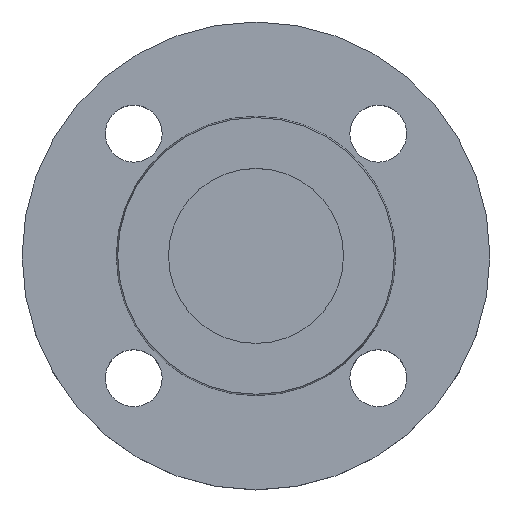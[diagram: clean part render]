
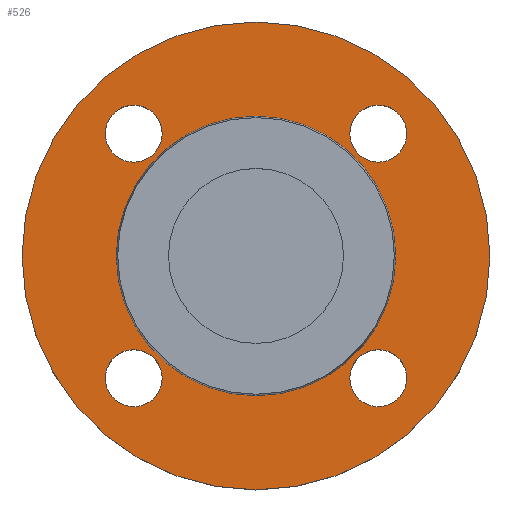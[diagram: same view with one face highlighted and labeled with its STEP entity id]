
A CAD part, top view. The second image highlights one B-rep face of the part: STEP entity #526.
In plain terms, the highlighted planar face has unit normal (0, 0, 1).
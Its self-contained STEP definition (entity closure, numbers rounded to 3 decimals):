
#21 = CARTESIAN_POINT ( 'NONE',  ( 57.5, 0., -2. ) ) ;
#26 = DIRECTION ( 'NONE',  ( 0., 0., -1. ) ) ;
#27 = AXIS2_PLACEMENT_3D ( 'NONE', #117, #734, #477 ) ;
#28 = CARTESIAN_POINT ( 'NONE',  ( -30.052, 30.052, -2. ) ) ;
#33 = DIRECTION ( 'NONE',  ( 1., 0., 0. ) ) ;
#34 = CARTESIAN_POINT ( 'NONE',  ( 0., 0., -2. ) ) ;
#38 = CARTESIAN_POINT ( 'NONE',  ( 37.052, 30.052, -2. ) ) ;
#45 = ORIENTED_EDGE ( 'NONE', *, *, #164, .T. ) ;
#46 = CARTESIAN_POINT ( 'NONE',  ( 23.052, -30.052, -2. ) ) ;
#49 = DIRECTION ( 'NONE',  ( 0., 0., -1. ) ) ;
#60 = CARTESIAN_POINT ( 'NONE',  ( 23.052, 30.052, -2. ) ) ;
#64 = CARTESIAN_POINT ( 'NONE',  ( 0., 0., -2. ) ) ;
#68 = CIRCLE ( 'NONE', #173, 7. ) ;
#90 = DIRECTION ( 'NONE',  ( 0., 0., -1. ) ) ;
#98 = CARTESIAN_POINT ( 'NONE',  ( -23.052, 30.052, -2. ) ) ;
#108 = AXIS2_PLACEMENT_3D ( 'NONE', #169, #689, #109 ) ;
#109 = DIRECTION ( 'NONE',  ( -1., 0., 0. ) ) ;
#114 = ORIENTED_EDGE ( 'NONE', *, *, #404, .T. ) ;
#117 = CARTESIAN_POINT ( 'NONE',  ( -30.052, 30.052, -2. ) ) ;
#128 = CIRCLE ( 'NONE', #27, 7. ) ;
#130 = AXIS2_PLACEMENT_3D ( 'NONE', #34, #603, #545 ) ;
#141 = VERTEX_POINT ( 'NONE', #38 ) ;
#164 = EDGE_CURVE ( 'NONE', #141, #687, #617, .T. ) ;
#169 = CARTESIAN_POINT ( 'NONE',  ( 0., 0., -2. ) ) ;
#172 = DIRECTION ( 'NONE',  ( 0., 0., -1. ) ) ;
#173 = AXIS2_PLACEMENT_3D ( 'NONE', #820, #243, #507 ) ;
#177 = FACE_OUTER_BOUND ( 'NONE', #593, .T. ) ;
#195 = ORIENTED_EDGE ( 'NONE', *, *, #785, .T. ) ;
#197 = AXIS2_PLACEMENT_3D ( 'NONE', #28, #90, #416 ) ;
#200 = EDGE_LOOP ( 'NONE', ( #45, #432 ) ) ;
#210 = CARTESIAN_POINT ( 'NONE',  ( -23.052, -30.052, -2. ) ) ;
#213 = ORIENTED_EDGE ( 'NONE', *, *, #674, .T. ) ;
#222 = PLANE ( 'NONE',  #633 ) ;
#237 = EDGE_CURVE ( 'NONE', #546, #730, #312, .T. ) ;
#240 = FACE_BOUND ( 'NONE', #429, .T. ) ;
#243 = DIRECTION ( 'NONE',  ( 0., 0., -1. ) ) ;
#266 = EDGE_CURVE ( 'NONE', #730, #546, #128, .T. ) ;
#269 = AXIS2_PLACEMENT_3D ( 'NONE', #578, #642, #391 ) ;
#272 = VERTEX_POINT ( 'NONE', #210 ) ;
#280 = CARTESIAN_POINT ( 'NONE',  ( 30.052, -30.052, -2. ) ) ;
#283 = CIRCLE ( 'NONE', #130, 34.353 ) ;
#288 = CARTESIAN_POINT ( 'NONE',  ( 34.353, 0., -2. ) ) ;
#294 = ORIENTED_EDGE ( 'NONE', *, *, #237, .T. ) ;
#301 = AXIS2_PLACEMENT_3D ( 'NONE', #608, #679, #424 ) ;
#306 = VERTEX_POINT ( 'NONE', #21 ) ;
#312 = CIRCLE ( 'NONE', #197, 7. ) ;
#322 = DIRECTION ( 'NONE',  ( 1., 0., 0. ) ) ;
#327 = DIRECTION ( 'NONE',  ( 0., 0., -1. ) ) ;
#368 = AXIS2_PLACEMENT_3D ( 'NONE', #280, #172, #653 ) ;
#372 = CIRCLE ( 'NONE', #476, 7. ) ;
#386 = CIRCLE ( 'NONE', #269, 7. ) ;
#387 = DIRECTION ( 'NONE',  ( -1., 0., 0. ) ) ;
#388 = CARTESIAN_POINT ( 'NONE',  ( -37.052, -30.052, -2. ) ) ;
#391 = DIRECTION ( 'NONE',  ( 1., 0., 0. ) ) ;
#394 = ORIENTED_EDGE ( 'NONE', *, *, #661, .F. ) ;
#404 = EDGE_CURVE ( 'NONE', #272, #779, #386, .T. ) ;
#407 = ORIENTED_EDGE ( 'NONE', *, *, #426, .T. ) ;
#416 = DIRECTION ( 'NONE',  ( 1., 0., 0. ) ) ;
#418 = EDGE_CURVE ( 'NONE', #306, #716, #643, .T. ) ;
#420 = CIRCLE ( 'NONE', #672, 7. ) ;
#424 = DIRECTION ( 'NONE',  ( 1., 0., 0. ) ) ;
#426 = EDGE_CURVE ( 'NONE', #782, #490, #471, .T. ) ;
#427 = DIRECTION ( 'NONE',  ( 1., 0., 0. ) ) ;
#429 = EDGE_LOOP ( 'NONE', ( #582, #407 ) ) ;
#432 = ORIENTED_EDGE ( 'NONE', *, *, #719, .T. ) ;
#436 = EDGE_LOOP ( 'NONE', ( #195, #803 ) ) ;
#439 = CARTESIAN_POINT ( 'NONE',  ( 0., 0., -2. ) ) ;
#446 = FACE_BOUND ( 'NONE', #200, .T. ) ;
#465 = VERTEX_POINT ( 'NONE', #612 ) ;
#470 = DIRECTION ( 'NONE',  ( -1., 0., 0. ) ) ;
#471 = CIRCLE ( 'NONE', #368, 7. ) ;
#475 = CARTESIAN_POINT ( 'NONE',  ( 37.052, -30.052, -2. ) ) ;
#476 = AXIS2_PLACEMENT_3D ( 'NONE', #623, #49, #322 ) ;
#477 = DIRECTION ( 'NONE',  ( 1., 0., 0. ) ) ;
#488 = DIRECTION ( 'NONE',  ( 0., 0., 1. ) ) ;
#490 = VERTEX_POINT ( 'NONE', #475 ) ;
#504 = AXIS2_PLACEMENT_3D ( 'NONE', #64, #327, #387 ) ;
#506 = FACE_BOUND ( 'NONE', #618, .T. ) ;
#507 = DIRECTION ( 'NONE',  ( 1., 0., 0. ) ) ;
#511 = EDGE_CURVE ( 'NONE', #490, #782, #420, .T. ) ;
#522 = ORIENTED_EDGE ( 'NONE', *, *, #266, .T. ) ;
#526 = ADVANCED_FACE ( 'NONE', ( #240, #818, #506, #446, #758, #177 ), #222, .T. ) ;
#545 = DIRECTION ( 'NONE',  ( -1., 0., 0. ) ) ;
#546 = VERTEX_POINT ( 'NONE', #98 ) ;
#565 = CARTESIAN_POINT ( 'NONE',  ( -57.5, 0., -2. ) ) ;
#578 = CARTESIAN_POINT ( 'NONE',  ( -30.052, -30.052, -2. ) ) ;
#582 = ORIENTED_EDGE ( 'NONE', *, *, #511, .T. ) ;
#593 = EDGE_LOOP ( 'NONE', ( #817, #394 ) ) ;
#602 = DIRECTION ( 'NONE',  ( 0., 0., -1. ) ) ;
#603 = DIRECTION ( 'NONE',  ( 0., 0., -1. ) ) ;
#608 = CARTESIAN_POINT ( 'NONE',  ( 30.052, 30.052, -2. ) ) ;
#612 = CARTESIAN_POINT ( 'NONE',  ( -34.353, 0., -2. ) ) ;
#617 = CIRCLE ( 'NONE', #301, 7. ) ;
#618 = EDGE_LOOP ( 'NONE', ( #294, #522 ) ) ;
#623 = CARTESIAN_POINT ( 'NONE',  ( -30.052, -30.052, -2. ) ) ;
#633 = AXIS2_PLACEMENT_3D ( 'NONE', #742, #488, #427 ) ;
#642 = DIRECTION ( 'NONE',  ( 0., 0., -1. ) ) ;
#643 = CIRCLE ( 'NONE', #828, 57.5 ) ;
#653 = DIRECTION ( 'NONE',  ( 1., 0., 0. ) ) ;
#661 = EDGE_CURVE ( 'NONE', #716, #306, #733, .T. ) ;
#672 = AXIS2_PLACEMENT_3D ( 'NONE', #712, #602, #33 ) ;
#674 = EDGE_CURVE ( 'NONE', #779, #272, #372, .T. ) ;
#679 = DIRECTION ( 'NONE',  ( 0., 0., -1. ) ) ;
#687 = VERTEX_POINT ( 'NONE', #60 ) ;
#689 = DIRECTION ( 'NONE',  ( 0., 0., -1. ) ) ;
#712 = CARTESIAN_POINT ( 'NONE',  ( 30.052, -30.052, -2. ) ) ;
#716 = VERTEX_POINT ( 'NONE', #565 ) ;
#717 = CIRCLE ( 'NONE', #504, 34.353 ) ;
#719 = EDGE_CURVE ( 'NONE', #687, #141, #68, .T. ) ;
#730 = VERTEX_POINT ( 'NONE', #759 ) ;
#733 = CIRCLE ( 'NONE', #108, 57.5 ) ;
#734 = DIRECTION ( 'NONE',  ( 0., 0., -1. ) ) ;
#742 = CARTESIAN_POINT ( 'NONE',  ( 34.353, 0., -2. ) ) ;
#758 = FACE_BOUND ( 'NONE', #436, .T. ) ;
#759 = CARTESIAN_POINT ( 'NONE',  ( -37.052, 30.052, -2. ) ) ;
#779 = VERTEX_POINT ( 'NONE', #388 ) ;
#782 = VERTEX_POINT ( 'NONE', #46 ) ;
#785 = EDGE_CURVE ( 'NONE', #465, #788, #283, .T. ) ;
#788 = VERTEX_POINT ( 'NONE', #288 ) ;
#795 = EDGE_LOOP ( 'NONE', ( #114, #213 ) ) ;
#796 = EDGE_CURVE ( 'NONE', #788, #465, #717, .T. ) ;
#803 = ORIENTED_EDGE ( 'NONE', *, *, #796, .T. ) ;
#817 = ORIENTED_EDGE ( 'NONE', *, *, #418, .F. ) ;
#818 = FACE_BOUND ( 'NONE', #795, .T. ) ;
#820 = CARTESIAN_POINT ( 'NONE',  ( 30.052, 30.052, -2. ) ) ;
#828 = AXIS2_PLACEMENT_3D ( 'NONE', #439, #26, #470 ) ;
